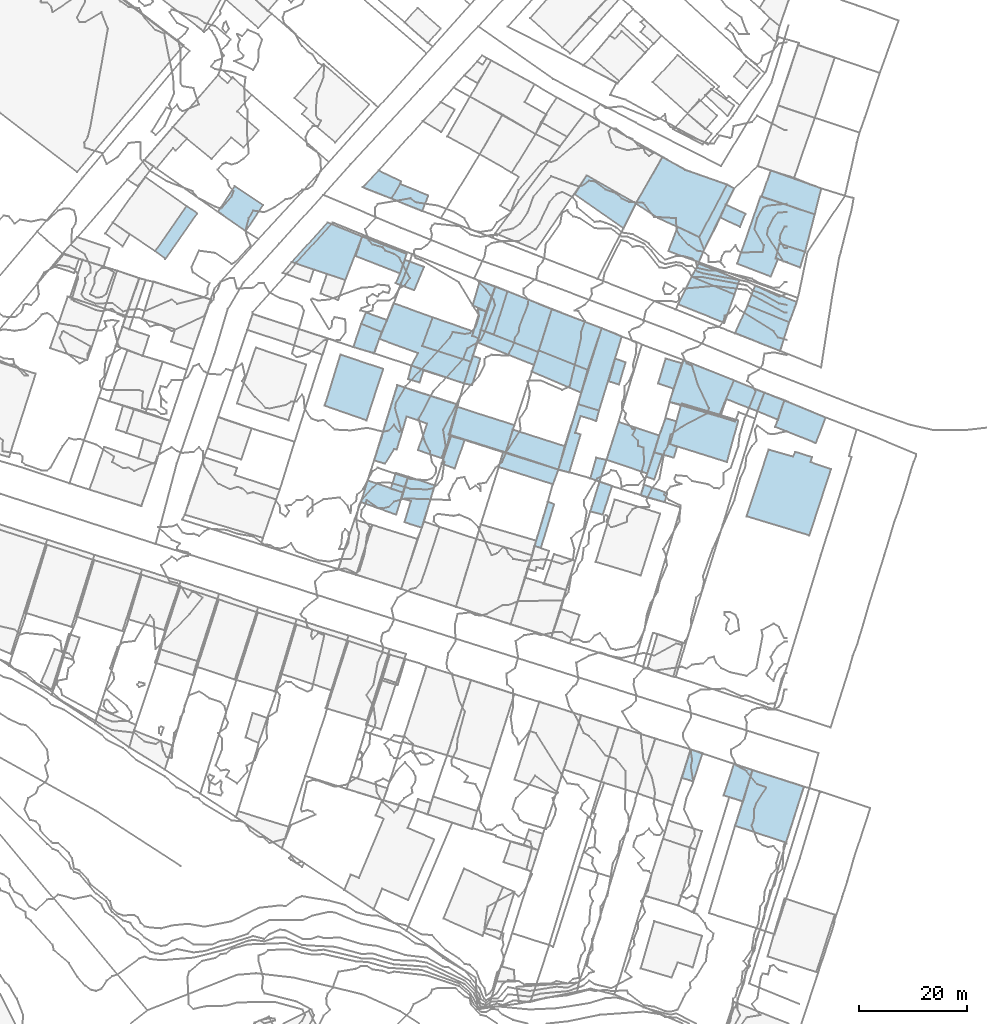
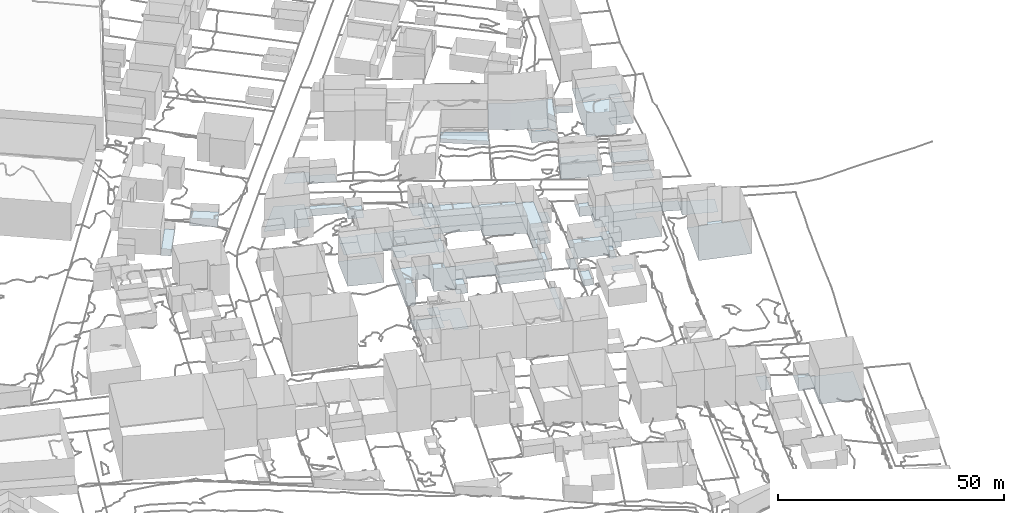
# Not in any storey, part 7 of 419: 60 footings.
"""IFC2X3 model written with IfcOpenShell, lengths in metres."""

from ifc_helpers import new_model, si_unit, frame, origin_with_axes, place, context, subcontext, project, faceted_brep, element, save


model = new_model("IFC2X3")

# Units and contexts
model_context = context("Model", 3, precision=1e-05, world=origin_with_axes())
body_context = subcontext(model_context, "Body", "Model", "MODEL_VIEW")
ifc_project = project(units=[si_unit("AREAUNIT", "SQUARE_METRE"), si_unit("LENGTHUNIT", "METRE")], contexts=[model_context])

# Footings
footing_1_placement = place(None, frame((909.2920204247, 193.2976909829, 76.31900177), z_axis=(0.0, 0.0, 1.0), x_axis=(1.0, 0.0, 0.0)))
element("IfcFooting", 1, at=footing_1_placement, Name="Sol 0", PredefinedType="STRIP_FOOTING", context=body_context, shape_type="Brep", body=[
    faceted_brep([(0.0, 0.0, 0.0), (1.9, 5.2999999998, 0.0), (9.4, 2.6999999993, 0.0), (10.4, 1.3999999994, 0.0), (9.0, -2.9000000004, 0.0), (9.2000000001, 1.8999999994, 0.0)], [[[0, 1, 2]], [[3, 4, 0]], [[0, 2, 5]], [[5, 3, 0]]]),
])
footing_2_placement = place(None, frame((900.3920204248, 172.1976909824, 75.807699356), z_axis=(0.0, 0.0, 1.0), x_axis=(1.0, 0.0, 0.0)))
element("IfcFooting", 2, at=footing_2_placement, Name="Sol 0", PredefinedType="STRIP_FOOTING", context=body_context, shape_type="Brep", body=[
    faceted_brep([(2.0, -0.5999999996, 0.0), (0.0, 0.0, 0.0), (4.2999999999, 13.9000000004, 0.0), (6.0, 8.1000000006, 0.0), (4.2, 2.0, 0.0), (3.7, 2.1000000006, 0.0), (12.7999999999, 0.2999999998, 0.0), (8.1, 1.9000000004, 0.0), (9.7999999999, 6.7999999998, 0.0), (15.5, 10.2999999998, 0.0)], [[[0, 1, 2]], [[3, 4, 5]], [[6, 7, 8]], [[5, 0, 2]], [[9, 6, 8]], [[3, 5, 2]], [[9, 8, 3]], [[3, 2, 9]]]),
])
footing_3_placement = place(None, frame((891.2920204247, 182.2976909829, 78.2625008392), z_axis=(0.0, 0.0, 1.0), x_axis=(1.0, 0.0, 0.0)))
element("IfcFooting", 3, at=footing_3_placement, Name="Sol 0", PredefinedType="STRIP_FOOTING", context=body_context, shape_type="Brep", body=[
    faceted_brep([(7.7000000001, -2.7000000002, 0.0), (0.0, 0.0, 0.0), (2.9, 9.3999999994, 0.0), (10.8, 6.7999999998, 0.0)], [[[0, 1, 2]], [[2, 3, 0]]]),
])
footing_4_placement = place(None, frame((943.2920204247, 172.2976909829, 73.4867980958), z_axis=(0.0, 0.0, 1.0), x_axis=(1.0, 0.0, 0.0)))
element("IfcFooting", 4, at=footing_4_placement, Name="Sol 0", PredefinedType="STRIP_FOOTING", context=body_context, shape_type="Brep", body=[
    faceted_brep([(7.5, -2.5, 0.0), (0.0, 0.0, 0.0), (2.2000000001, 7.0, 0.0), (9.7000000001, 4.5, 0.0)], [[[0, 1, 2]], [[2, 3, 0]]]),
])
footing_5_placement = place(None, frame((950.5920204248, 169.1976909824, 72.9079986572), z_axis=(0.0, 0.0, 1.0), x_axis=(1.0, 0.0, 0.0)))
element("IfcFooting", 5, at=footing_5_placement, Name="Sol 0", PredefinedType="STRIP_FOOTING", context=body_context, shape_type="Brep", body=[
    faceted_brep([(3.0, 4.0, 0.0), (1.5, -0.5, 0.0), (0.0, 0.0, 0.0), (1.5, 4.5, 0.0), (0.2, 0.6000000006, 0.0)], [[[0, 1, 2]], [[2, 3, 0]], [[3, 2, 4]]]),
])
footing_6_placement = place(None, frame((952.0920204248, 173.6976909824, 72.2478011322), z_axis=(0.0, 0.0, 1.0), x_axis=(1.0, 0.0, 0.0)))
element("IfcFooting", 6, at=footing_6_placement, Name="Sol 0", PredefinedType="STRIP_FOOTING", context=body_context, shape_type="Brep", body=[
    faceted_brep([(0.0, 0.0, 0.0), (0.9, 3.1000000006, 0.0), (2.1, 6.2999999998, 0.0), (4.2, 1.0, 0.0), (3.6, -1.0, 0.0), (4.1, 5.7000000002, 0.0), (2.9, 1.5, 0.0)], [[[0, 1, 2]], [[3, 4, 0]], [[2, 5, 6]], [[6, 3, 0]], [[0, 2, 6]]]),
])
footing_7_placement = place(None, frame((871.5920204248, 218.0976909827, 79.8493997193), z_axis=(0.0, 0.0, 1.0), x_axis=(1.0, 0.0, 0.0)))
element("IfcFooting", 7, at=footing_7_placement, Name="Sol 0", PredefinedType="STRIP_FOOTING", context=body_context, shape_type="Brep", body=[
    faceted_brep([(8.3, 1.2000000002, 0.0), (5.1, -3.6000000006, 0.0), (0.0, 0.0, 0.0), (3.1, 4.7000000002, 0.0)], [[[0, 1, 2]], [[2, 3, 0]]]),
])
footing_8_placement = place(None, frame((898.2920204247, 222.5976909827, 78.9779991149), z_axis=(0.0, 0.0, 1.0), x_axis=(1.0, 0.0, 0.0)))
element("IfcFooting", 8, at=footing_8_placement, Name="Sol 0", PredefinedType="STRIP_FOOTING", context=body_context, shape_type="Brep", body=[
    faceted_brep([(7.1000000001, 1.0999999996, 0.0), (6.9, 0.5999999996, 0.0), (5.3, -2.1000000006, 0.0), (0.0, 0.0, 0.0), (2.9, 3.0999999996, 0.0)], [[[0, 1, 2]], [[3, 4, 0]], [[0, 2, 3]]]),
])
footing_9_placement = place(None, frame((903.5920204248, 220.4976909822, 78.4268002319), z_axis=(0.0, 0.0, 1.0), x_axis=(1.0, 0.0, 0.0)))
element("IfcFooting", 9, at=footing_9_placement, Name="Sol 0", PredefinedType="STRIP_FOOTING", context=body_context, shape_type="Brep", body=[
    faceted_brep([(6.8, 0.6000000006, 0.0), (5.7, -2.2999999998, 0.0), (0.0, 0.0, 0.0), (1.6, 2.7000000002, 0.0)], [[[0, 1, 2]], [[2, 3, 0]]]),
])
footing_10_placement = place(None, frame((934.3920204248, 170.4976909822, 74.1349980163), z_axis=(0.0, 0.0, 1.0), x_axis=(1.0, 0.0, 0.0)))
element("IfcFooting", 10, at=footing_10_placement, Name="Sol 0", PredefinedType="STRIP_FOOTING", context=body_context, shape_type="Brep", body=[
    faceted_brep([(2.0, -0.5, 0.0), (0.0, 0.0, 0.0), (3.6, 12.1000000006, 0.0), (3.1, 6.8000000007, 0.0), (4.1, 6.5, 0.0), (7.5, 10.9000000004, 0.0), (7.0, 9.0, 0.0), (4.1, 9.9000000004, 0.0)], [[[0, 1, 2]], [[3, 4, 0]], [[5, 6, 7]], [[3, 0, 2]], [[2, 5, 7]], [[7, 3, 2]]]),
])
footing_11_placement = place(None, frame((905.4920204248, 165.1976909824, 74.2875997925), z_axis=(0.0, 0.0, 1.0), x_axis=(1.0, 0.0, 0.0)))
element("IfcFooting", 11, at=footing_11_placement, Name="Sol 0", PredefinedType="STRIP_FOOTING", context=body_context, shape_type="Brep", body=[
    faceted_brep([(1.7, -0.5, 0.0), (0.0, 0.0, 0.0), (1.2, 4.0, 0.0), (3.7, -5.3999999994, 0.0), (0.5, -4.3999999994, 0.0), (6.1, 2.4000000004, 0.0)], [[[0, 1, 2]], [[3, 4, 0]], [[2, 5, 3]], [[3, 0, 2]]]),
])
footing_12_placement = place(None, frame((897.9920204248, 197.3976909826, 78.2880004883), z_axis=(0.0, 0.0, 1.0), x_axis=(1.0, 0.0, 0.0)))
element("IfcFooting", 12, at=footing_12_placement, Name="Sol 0", PredefinedType="STRIP_FOOTING", context=body_context, shape_type="Brep", body=[
    faceted_brep([(3.7999999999, -1.5, 0.0), (0.0, 0.0, 0.0), (0.9, 2.0999999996, 0.0), (4.7999999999, 0.7000000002, 0.0)], [[[0, 1, 2]], [[2, 3, 0]]]),
])
footing_13_placement = place(None, frame((930.7920204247, 192.4976909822, 74.588999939), z_axis=(0.0, 0.0, 1.0), x_axis=(1.0, 0.0, 0.0)))
element("IfcFooting", 13, at=footing_13_placement, Name="Sol 0", PredefinedType="STRIP_FOOTING", context=body_context, shape_type="Brep", body=[
    faceted_brep([(0.0, 0.0, 0.0), (2.4, 7.6000000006, 0.0), (11.6000000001, 4.1000000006, 0.0), (9.0, -3.5999999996, 0.0)], [[[0, 1, 2]], [[2, 3, 0]]]),
])
footing_14_placement = place(None, frame((937.9920204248, 182.5976909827, 74.1879985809), z_axis=(0.0, 0.0, 1.0), x_axis=(1.0, 0.0, 0.0)))
element("IfcFooting", 14, at=footing_14_placement, Name="Sol 0", PredefinedType="STRIP_FOOTING", context=body_context, shape_type="Brep", body=[
    faceted_brep([(0.0, 0.0, 0.0), (4.4, 14.0, 0.0), (8.1, 12.5, 0.0), (3.9, -1.2000000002, 0.0)], [[[0, 1, 2]], [[2, 3, 0]]]),
])
footing_15_placement = place(None, frame((906.6920204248, 187.1976909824, 77.49039917), z_axis=(0.0, 0.0, 1.0), x_axis=(1.0, 0.0, 0.0)))
element("IfcFooting", 15, at=footing_15_placement, Name="Sol 0", PredefinedType="STRIP_FOOTING", context=body_context, shape_type="Brep", body=[
    faceted_brep([(0.0, 0.0, 0.0), (0.6, 2.5, 0.0), (2.8, 1.6000000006, 0.0), (2.1, -0.5999999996, 0.0)], [[[0, 1, 2]], [[2, 3, 0]]]),
])
footing_16_placement = place(None, frame((896.5920204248, 193.0976909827, 78.2880004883), z_axis=(0.0, 0.0, 1.0), x_axis=(1.0, 0.0, 0.0)))
element("IfcFooting", 16, at=footing_16_placement, Name="Sol 0", PredefinedType="STRIP_FOOTING", context=body_context, shape_type="Brep", body=[
    faceted_brep([(3.8, -1.1000000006, 0.0), (0.0, 0.0, 0.0), (1.4, 4.2999999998, 0.0), (5.2, 2.7999999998, 0.0)], [[[0, 1, 2]], [[2, 3, 0]]]),
])
footing_17_placement = place(None, frame((912.8920204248, 171.5976909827, 75.113199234), z_axis=(0.0, 0.0, 1.0), x_axis=(1.0, 0.0, 0.0)))
element("IfcFooting", 17, at=footing_17_placement, Name="Sol 0", PredefinedType="STRIP_FOOTING", context=body_context, shape_type="Brep", body=[
    faceted_brep([(0.0, 0.0, 0.0), (1.7, 5.0999999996, 0.0), (4.2, 4.3999999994, 0.0), (2.3999999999, -0.9000000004, 0.0)], [[[0, 1, 2]], [[2, 3, 0]]]),
])
footing_18_placement = place(None, frame((937.3920204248, 221.2976909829, 77.2576004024), z_axis=(0.0, 0.0, 1.0), x_axis=(1.0, 0.0, 0.0)))
element("IfcFooting", 18, at=footing_18_placement, Name="Sol 0", PredefinedType="STRIP_FOOTING", context=body_context, shape_type="Brep", body=[
    faceted_brep([(2.2, 3.5, 0.0), (11.2999999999, -1.7000000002, 0.0), (9.0, -6.3000000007, 0.0), (0.0, 0.0, 0.0)], [[[0, 1, 2]], [[2, 3, 0]]]),
])
footing_19_placement = place(None, frame((966.9920204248, 104.7976909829, 66.9700019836), z_axis=(0.0, 0.0, 1.0), x_axis=(1.0, 0.0, 0.0)))
element("IfcFooting", 19, at=footing_19_placement, Name="Sol 0", PredefinedType="STRIP_FOOTING", context=body_context, shape_type="Brep", body=[
    faceted_brep([(3.2, 10.2999999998, 0.0), (12.7, 7.1999999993, 0.0), (9.4, -3.1000000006, 0.0), (0.0, 0.0, 0.0)], [[[0, 1, 2]], [[2, 3, 0]]]),
])
footing_20_placement = place(None, frame((969.0920204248, 161.8976909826, 70.3125), z_axis=(0.0, 0.0, 1.0), x_axis=(1.0, 0.0, 0.0)))
element("IfcFooting", 20, at=footing_20_placement, Name="Sol 0", PredefinedType="STRIP_FOOTING", context=body_context, shape_type="Brep", body=[
    faceted_brep([(11.8, 10.0, 0.0), (15.6, 8.7000000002, 0.0), (11.6, -3.5, 0.0), (9.0, 11.9000000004, 0.0), (12.1, 10.9000000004, 0.0), (0.0, 0.0, 0.0), (4.1, 12.2999999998, 0.0), (8.6, 11.0, 0.0)], [[[0, 1, 2]], [[3, 4, 0]], [[5, 6, 7]], [[0, 2, 5]], [[7, 3, 0]], [[0, 5, 7]]]),
])
footing_21_placement = place(None, frame((949.5920204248, 165.7976909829, 71.9440007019), z_axis=(0.0, 0.0, 1.0), x_axis=(1.0, 0.0, 0.0)))
element("IfcFooting", 21, at=footing_21_placement, Name="Sol 0", PredefinedType="STRIP_FOOTING", context=body_context, shape_type="Brep", body=[
    faceted_brep([(0.0, 0.0, 0.0), (0.6, 1.8999999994, 0.0), (4.9, 0.3999999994, 0.0), (4.4, -1.3000000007, 0.0)], [[[0, 1, 2]], [[2, 3, 0]]]),
])
footing_22_placement = place(None, frame((903.4920204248, 166.9976909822, 75.2657026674), z_axis=(0.0, 0.0, 1.0), x_axis=(1.0, 0.0, 0.0)))
element("IfcFooting", 22, at=footing_22_placement, Name="Sol 0", PredefinedType="STRIP_FOOTING", context=body_context, shape_type="Brep", body=[
    faceted_brep([(2.2, -0.6999999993, 0.0), (0.0, 0.0, 0.0), (0.9, 2.9000000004, 0.0), (3.2, 2.2000000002, 0.0)], [[[0, 1, 2]], [[2, 3, 0]]]),
])
footing_23_placement = place(None, frame((904.3920204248, 204.8976909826, 78.1399993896), z_axis=(0.0, 0.0, 1.0), x_axis=(1.0, 0.0, 0.0)))
element("IfcFooting", 23, at=footing_23_placement, Name="Sol 0", PredefinedType="STRIP_FOOTING", context=body_context, shape_type="Brep", body=[
    faceted_brep([(3.3999999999, -1.2999999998, 0.0), (0.0, 0.0, 0.0), (0.7999999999, 1.7999999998, 0.0), (1.7, 4.2999999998, 0.0), (5.2, 3.0, 0.0)], [[[0, 1, 2]], [[3, 4, 0]], [[0, 2, 3]]]),
])
footing_24_placement = place(None, frame((859.9920204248, 210.7976909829, 80.3249977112), z_axis=(0.0, 0.0, 1.0), x_axis=(1.0, 0.0, 0.0)))
element("IfcFooting", 24, at=footing_24_placement, Name="Sol 0", PredefinedType="STRIP_FOOTING", context=body_context, shape_type="Brep", body=[
    faceted_brep([(0.0, 0.0, 0.0), (5.7999999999, 8.2999999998, 0.0), (7.7999999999, 7.0, 0.0), (1.9, -1.4000000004, 0.0)], [[[0, 1, 2]], [[2, 3, 0]]]),
])
footing_25_placement = place(None, frame((929.9920204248, 156.3976909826, 74.1690032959), z_axis=(0.0, 0.0, 1.0), x_axis=(1.0, 0.0, 0.0)))
element("IfcFooting", 25, at=footing_25_placement, Name="Sol 0", PredefinedType="STRIP_FOOTING", context=body_context, shape_type="Brep", body=[
    faceted_brep([(0.0, 0.0, 0.0), (0.2999999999, 1.0, 0.0), (2.5, 8.2000000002, 0.0), (3.6, 7.7000000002, 0.0), (1.2, -0.2999999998, 0.0)], [[[0, 1, 2]], [[3, 4, 0]], [[0, 2, 3]]]),
])
footing_26_placement = place(None, frame((897.9920204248, 164.4976909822, 74.7147990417), z_axis=(0.0, 0.0, 1.0), x_axis=(1.0, 0.0, 0.0)))
element("IfcFooting", 26, at=footing_26_placement, Name="Sol 0", PredefinedType="STRIP_FOOTING", context=body_context, shape_type="Brep", body=[
    faceted_brep([(0.0, 0.0, 0.0), (1.2, 4.0, 0.0), (7.7, 1.8000000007, 0.0), (6.5, -2.2999999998, 0.0)], [[[0, 1, 2]], [[2, 3, 0]]]),
])
footing_27_placement = place(None, frame((896.9920204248, 209.8976909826, 78.3790014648), z_axis=(0.0, 0.0, 1.0), x_axis=(1.0, 0.0, 0.0)))
element("IfcFooting", 27, at=footing_27_placement, Name="Sol 0", PredefinedType="STRIP_FOOTING", context=body_context, shape_type="Brep", body=[
    faceted_brep([(0.0, 0.0, 0.0), (1.2, 3.5999999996, 0.0), (9.4, 0.4000000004, 0.0), (8.2, -3.2000000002, 0.0)], [[[0, 1, 2]], [[2, 3, 0]]]),
])
footing_28_placement = place(None, frame((954.6920204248, 210.7976909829, 77.4896006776), z_axis=(0.0, 0.0, 1.0), x_axis=(1.0, 0.0, 0.0)))
element("IfcFooting", 28, at=footing_28_placement, Name="Sol 0", PredefinedType="STRIP_FOOTING", context=body_context, shape_type="Brep", body=[
    faceted_brep([(6.6, 0.2999999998, 0.0), (5.6, -2.0, 0.0), (0.0, 0.0, 0.0), (1.7000000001, 4.5, 0.0), (5.7000000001, 2.5999999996, 0.0)], [[[0, 1, 2]], [[3, 4, 0]], [[0, 2, 3]]]),
])
footing_29_placement = place(None, frame((964.2920204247, 216.9976909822, 78.3328025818), z_axis=(0.0, 0.0, 1.0), x_axis=(1.0, 0.0, 0.0)))
element("IfcFooting", 29, at=footing_29_placement, Name="Sol 0", PredefinedType="STRIP_FOOTING", context=body_context, shape_type="Brep", body=[
    faceted_brep([(0.0, 0.0, 0.0), (1.0, 2.4000000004, 0.0), (4.6000000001, 0.7000000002, 0.0), (3.6000000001, -1.6999999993, 0.0)], [[[0, 1, 2]], [[2, 3, 0]]]),
])
footing_30_placement = place(None, frame((960.3920204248, 213.3976909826, 78.0435987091), z_axis=(0.0, 0.0, 1.0), x_axis=(1.0, 0.0, 0.0)))
element("IfcFooting", 30, at=footing_30_placement, Name="Sol 0", PredefinedType="STRIP_FOOTING", context=body_context, shape_type="Brep", body=[
    faceted_brep([(0.0, 0.0, 0.0), (5.1, 9.7000000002, 0.0), (6.3999999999, 9.0, 0.0), (0.8999999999, -2.2999999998, 0.0)], [[[0, 1, 2]], [[2, 3, 0]]]),
])
footing_31_placement = place(None, frame((971.8920204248, 220.8976909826, 76.4740020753), z_axis=(0.0, 0.0, 1.0), x_axis=(1.0, 0.0, 0.0)))
element("IfcFooting", 31, at=footing_31_placement, Name="Sol 0", PredefinedType="STRIP_FOOTING", context=body_context, shape_type="Brep", body=[
    faceted_brep([(1.7, 4.7999999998, 0.0), (11.0, 1.5, 0.0), (9.7999999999, -3.2999999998, 0.0), (0.0, 0.0, 0.0)], [[[0, 1, 2]], [[2, 3, 0]]]),
])
footing_32_placement = place(None, frame((971.0920204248, 181.2976909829, 71.1359985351), z_axis=(0.0, 0.0, 1.0), x_axis=(1.0, 0.0, 0.0)))
element("IfcFooting", 32, at=footing_32_placement, Name="Sol 0", PredefinedType="STRIP_FOOTING", context=body_context, shape_type="Brep", body=[
    faceted_brep([(0.0, 0.0, 0.0), (1.3, 3.3999999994, 0.0), (5.0, 2.0, 0.0), (3.8, -1.6000000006, 0.0)], [[[0, 1, 2]], [[2, 3, 0]]]),
])
footing_33_placement = place(None, frame((918.4920204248, 195.1976909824, 76.8913980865), z_axis=(0.0, 0.0, 1.0), x_axis=(1.0, 0.0, 0.0)))
element("IfcFooting", 33, at=footing_33_placement, Name="Sol 0", PredefinedType="STRIP_FOOTING", context=body_context, shape_type="Brep", body=[
    faceted_brep([(1.2, 3.9000000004, 0.0), (1.1, 4.9000000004, 0.0), (2.6, 4.5, 0.0), (1.2, -0.5, 0.0), (0.0, 0.0, 0.0)], [[[0, 1, 2]], [[3, 4, 0]], [[0, 2, 3]]]),
])
footing_34_placement = place(None, frame((918.5920204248, 200.7976909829, 76.5183987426), z_axis=(0.0, 0.0, 1.0), x_axis=(1.0, 0.0, 0.0)))
element("IfcFooting", 34, at=footing_34_placement, Name="Sol 0", PredefinedType="STRIP_FOOTING", context=body_context, shape_type="Brep", body=[
    faceted_brep([(0.0, 0.0, 0.0), (1.3, 4.5, 0.0), (4.2, 3.5, 0.0), (2.5, -1.1000000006, 0.0)], [[[0, 1, 2]], [[2, 3, 0]]]),
])
footing_35_placement = place(None, frame((954.8920204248, 182.9976909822, 71.304499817), z_axis=(0.0, 0.0, 1.0), x_axis=(1.0, 0.0, 0.0)))
element("IfcFooting", 35, at=footing_35_placement, Name="Sol 0", PredefinedType="STRIP_FOOTING", context=body_context, shape_type="Brep", body=[
    faceted_brep([(0.0, 0.0, 0.0), (2.6, 7.7000000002, 0.0), (17.5, 1.7000000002, 0.0), (10.5, 0.5, 0.0), (9.5, -2.3999999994, 0.0), (16.2, -1.6999999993, 0.0)], [[[0, 1, 2]], [[3, 4, 0]], [[2, 5, 3]], [[3, 0, 2]]]),
])
footing_36_placement = place(None, frame((929.4920204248, 188.5976909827, 74.588999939), z_axis=(0.0, 0.0, 1.0), x_axis=(1.0, 0.0, 0.0)))
element("IfcFooting", 36, at=footing_36_placement, Name="Sol 0", PredefinedType="STRIP_FOOTING", context=body_context, shape_type="Brep", body=[
    faceted_brep([(10.2999999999, 0.2999999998, 0.0), (9.1, -3.9000000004, 0.0), (0.0, 0.0, 0.0), (1.2999999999, 3.8999999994, 0.0), (1.2, 3.5999999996, 0.0)], [[[0, 1, 2]], [[2, 3, 0]], [[3, 2, 4]]]),
])
footing_37_placement = place(None, frame((919.3920204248, 193.9976909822, 75.3839996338), z_axis=(0.0, 0.0, 1.0), x_axis=(1.0, 0.0, 0.0)))
element("IfcFooting", 37, at=footing_37_placement, Name="Sol 0", PredefinedType="STRIP_FOOTING", context=body_context, shape_type="Brep", body=[
    faceted_brep([(10.5, -4.1999999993, 0.0), (0.0, 0.0, 0.0), (0.2999999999, 0.7000000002, 0.0), (0.7, 2.3000000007, 0.0), (11.2999999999, -1.7999999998, 0.0)], [[[0, 1, 2]], [[3, 4, 0]], [[0, 2, 3]]]),
])
footing_38_placement = place(None, frame((969.2920204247, 200.7976909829, 73.1272024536), z_axis=(0.0, 0.0, 1.0), x_axis=(1.0, 0.0, 0.0)))
element("IfcFooting", 38, at=footing_38_placement, Name="Sol 0", PredefinedType="STRIP_FOOTING", context=body_context, shape_type="Brep", body=[
    faceted_brep([(9.1000000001, 0.5999999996, 0.0), (7.7000000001, -3.1000000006, 0.0), (0.0, 0.0, 0.0), (1.4, 3.6999999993, 0.0)], [[[0, 1, 2]], [[2, 3, 0]]]),
])
footing_39_placement = place(None, frame((966.9920204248, 195.6976909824, 72.0699989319), z_axis=(0.0, 0.0, 1.0), x_axis=(1.0, 0.0, 0.0)))
element("IfcFooting", 39, at=footing_39_placement, Name="Sol 0", PredefinedType="STRIP_FOOTING", context=body_context, shape_type="Brep", body=[
    faceted_brep([(10.0, 2.0, 0.0), (8.2999999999, -3.2999999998, 0.0), (0.0, 0.0, 0.0), (2.2999999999, 5.1000000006, 0.0)], [[[0, 1, 2]], [[2, 3, 0]]]),
])
footing_40_placement = place(None, frame((923.3920204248, 170.9976909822, 74.3231997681), z_axis=(0.0, 0.0, 1.0), x_axis=(1.0, 0.0, 0.0)))
element("IfcFooting", 40, at=footing_40_placement, Name="Sol 0", PredefinedType="STRIP_FOOTING", context=body_context, shape_type="Brep", body=[
    faceted_brep([(0.0, 0.0, 0.0), (0.7999999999, 2.7000000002, 0.0), (11.0, -0.5, 0.0), (10.0, -3.1999999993, 0.0)], [[[0, 1, 2]], [[2, 3, 0]]]),
])
footing_41_placement = place(None, frame((974.3920204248, 178.3976909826, 70.8199996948), z_axis=(0.0, 0.0, 1.0), x_axis=(1.0, 0.0, 0.0)))
element("IfcFooting", 41, at=footing_41_placement, Name="Sol 0", PredefinedType="STRIP_FOOTING", context=body_context, shape_type="Brep", body=[
    faceted_brep([(0.0, 0.0, 0.0), (1.7, 4.9000000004, 0.0), (9.2999999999, 1.7000000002, 0.0), (7.5, -3.0, 0.0)], [[[0, 1, 2]], [[2, 3, 0]]]),
])
footing_42_placement = place(None, frame((940.2920204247, 168.8976909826, 73.7157978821), z_axis=(0.0, 0.0, 1.0), x_axis=(1.0, 0.0, 0.0)))
element("IfcFooting", 42, at=footing_42_placement, Name="Sol 0", PredefinedType="STRIP_FOOTING", context=body_context, shape_type="Brep", body=[
    faceted_brep([(1.7000000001, -0.5999999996, 0.0), (0.0, 0.0, 0.0), (1.1000000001, 3.7999999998, 0.0), (3.0, 3.4000000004, 0.0)], [[[0, 1, 2]], [[2, 3, 0]]]),
])
footing_43_placement = place(None, frame((948.6920204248, 219.5976909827, 77.9420021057), z_axis=(0.0, 0.0, 1.0), x_axis=(1.0, 0.0, 0.0)))
element("IfcFooting", 43, at=footing_43_placement, Name="Sol 0", PredefinedType="STRIP_FOOTING", context=body_context, shape_type="Brep", body=[
    faceted_brep([(0.0, 0.0, 0.0), (4.9, 8.5999999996, 0.0), (9.1, 6.2000000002, 0.0), (11.7000000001, -6.2000000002, 0.0), (4.1, -2.7000000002, 0.0), (16.8, 3.5, 0.0)], [[[0, 1, 2]], [[3, 4, 0]], [[2, 5, 3]], [[3, 0, 2]]]),
])
footing_44_placement = place(None, frame((957.1920204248, 113.5976909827, 68.7071984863), z_axis=(0.0, 0.0, 1.0), x_axis=(1.0, 0.0, 0.0)))
element("IfcFooting", 44, at=footing_44_placement, Name="Sol 0", PredefinedType="STRIP_FOOTING", context=body_context, shape_type="Brep", body=[
    faceted_brep([(1.6, 5.2999999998, 0.0), (3.8, 4.5999999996, 0.0), (2.1, -0.6000000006, 0.0), (0.0, 0.0, 0.0)], [[[0, 1, 2]], [[2, 3, 0]]]),
])
footing_45_placement = place(None, frame((958.9920204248, 206.0976909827, 73.0903997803), z_axis=(0.0, 0.0, 1.0), x_axis=(1.0, 0.0, 0.0)))
element("IfcFooting", 45, at=footing_45_placement, Name="Sol 0", PredefinedType="STRIP_FOOTING", context=body_context, shape_type="Brep", body=[
    faceted_brep([(0.0, 0.0, 0.0), (1.2999999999, 2.3999999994, 0.0), (8.7999999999, -0.6000000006, 0.0), (7.9, -3.2999999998, 0.0)], [[[0, 1, 2]], [[2, 3, 0]]]),
])
footing_46_placement = place(None, frame((974.4920204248, 209.4976909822, 76.1332025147), z_axis=(0.0, 0.0, 1.0), x_axis=(1.0, 0.0, 0.0)))
element("IfcFooting", 46, at=footing_46_placement, Name="Sol 0", PredefinedType="STRIP_FOOTING", context=body_context, shape_type="Brep", body=[
    faceted_brep([(0.7, 2.7000000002, 0.0), (5.4, 1.2000000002, 0.0), (4.5, -1.6999999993, 0.0), (0.0, 0.0, 0.0)], [[[0, 1, 2]], [[2, 3, 0]]]),
])
footing_47_placement = place(None, frame((967.3920204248, 208.4976909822, 76.1332025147), z_axis=(0.0, 0.0, 1.0), x_axis=(1.0, 0.0, 0.0)))
element("IfcFooting", 47, at=footing_47_placement, Name="Sol 0", PredefinedType="STRIP_FOOTING", context=body_context, shape_type="Brep", body=[
    faceted_brep([(4.2999999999, 12.4000000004, 0.0), (14.2999999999, 9.1000000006, 0.0), (12.5, 2.2000000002, 0.0), (6.2, -2.3999999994, 0.0), (0.0, 0.0, 0.0), (7.1, 1.0, 0.0), (7.5, 0.9000000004, 0.0), (7.7999999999, 3.7000000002, 0.0)], [[[0, 1, 2]], [[3, 4, 0]], [[5, 6, 3]], [[0, 2, 7]], [[5, 3, 0]], [[0, 7, 5]]]),
])
footing_48_placement = place(None, frame((956.4920204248, 200.9976909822, 72.9532003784), z_axis=(0.0, 0.0, 1.0), x_axis=(1.0, 0.0, 0.0)))
element("IfcFooting", 48, at=footing_48_placement, Name="Sol 0", PredefinedType="STRIP_FOOTING", context=body_context, shape_type="Brep", body=[
    faceted_brep([(0.0, 0.0, 0.0), (2.5, 5.1000000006, 0.0), (10.4, 1.8000000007, 0.0), (8.5, -3.3999999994, 0.0)], [[[0, 1, 2]], [[2, 3, 0]]]),
])
footing_49_placement = place(None, frame((954.9920204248, 175.1976909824, 72.0975009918), z_axis=(0.0, 0.0, 1.0), x_axis=(1.0, 0.0, 0.0)))
element("IfcFooting", 49, at=footing_49_placement, Name="Sol 0", PredefinedType="STRIP_FOOTING", context=body_context, shape_type="Brep", body=[
    faceted_brep([(0.0, 0.0, 0.0), (2.0, 7.1000000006, 0.0), (2.2, 7.5, 0.0), (12.6, 4.4000000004, 0.0), (10.5, -3.2999999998, 0.0)], [[[0, 1, 2]], [[3, 4, 0]], [[0, 2, 3]]]),
])
footing_50_placement = place(None, frame((952.7920204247, 186.3976909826, 73.0867999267), z_axis=(0.0, 0.0, 1.0), x_axis=(1.0, 0.0, 0.0)))
element("IfcFooting", 50, at=footing_50_placement, Name="Sol 0", PredefinedType="STRIP_FOOTING", context=body_context, shape_type="Brep", body=[
    faceted_brep([(1.4, 4.5999999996, 0.0), (4.4, 3.7000000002, 0.0), (2.9, -1.0, 0.0), (0.0, 0.0, 0.0)], [[[0, 1, 2]], [[2, 3, 0]]]),
])
footing_51_placement = place(None, frame((964.8920204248, 110.3976909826, 67.8999998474), z_axis=(0.0, 0.0, 1.0), x_axis=(1.0, 0.0, 0.0)))
element("IfcFooting", 51, at=footing_51_placement, Name="Sol 0", PredefinedType="STRIP_FOOTING", context=body_context, shape_type="Brep", body=[
    faceted_brep([(5.2999999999, 4.7000000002, 0.0), (3.6, -1.0999999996, 0.0), (0.0, 0.0, 0.0), (1.8999999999, 5.7999999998, 0.0)], [[[0, 1, 2]], [[2, 3, 0]]]),
])
footing_52_placement = place(None, frame((916.9920204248, 186.3976909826, 75.8489025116), z_axis=(0.0, 0.0, 1.0), x_axis=(1.0, 0.0, 0.0)))
element("IfcFooting", 52, at=footing_52_placement, Name="Sol 0", PredefinedType="STRIP_FOOTING", context=body_context, shape_type="Brep", body=[
    faceted_brep([(1.5, -0.2999999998, 0.0), (0.0, 0.0, 0.0), (1.2999999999, 4.0, 0.0), (1.6, 5.0999999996, 0.0), (3.0, 4.5999999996, 0.0)], [[[0, 1, 2]], [[3, 4, 0]], [[0, 2, 3]]]),
])
footing_53_placement = place(None, frame((920.0920204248, 196.2976909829, 76.1059989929), z_axis=(0.0, 0.0, 1.0), x_axis=(1.0, 0.0, 0.0)))
element("IfcFooting", 53, at=footing_53_placement, Name="Sol 0", PredefinedType="STRIP_FOOTING", context=body_context, shape_type="Brep", body=[
    faceted_brep([(0.0, 0.0, 0.0), (2.7, 8.0, 0.0), (4.9, 7.0999999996, 0.0), (2.4, -0.9000000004, 0.0)], [[[0, 1, 2]], [[2, 3, 0]]]),
])
footing_54_placement = place(None, frame((924.6920204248, 173.6976909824, 74.3799972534), z_axis=(0.0, 0.0, 1.0), x_axis=(1.0, 0.0, 0.0)))
element("IfcFooting", 54, at=footing_54_placement, Name="Sol 0", PredefinedType="STRIP_FOOTING", context=body_context, shape_type="Brep", body=[
    faceted_brep([(0.0, 0.0, 0.0), (1.3, 4.2000000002, 0.0), (10.9, 1.1000000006, 0.0), (9.7000000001, -3.2000000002, 0.0)], [[[0, 1, 2]], [[2, 3, 0]]]),
])
footing_55_placement = place(None, frame((914.1920204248, 176.9976909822, 74.9100016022), z_axis=(0.0, 0.0, 1.0), x_axis=(1.0, 0.0, 0.0)))
element("IfcFooting", 55, at=footing_55_placement, Name="Sol 0", PredefinedType="STRIP_FOOTING", context=body_context, shape_type="Brep", body=[
    faceted_brep([(0.0, 0.0, 0.0), (1.5, 5.1000000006, 0.0), (12.1, 1.7000000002, 0.0), (10.5, -3.2999999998, 0.0)], [[[0, 1, 2]], [[2, 3, 0]]]),
])
footing_56_placement = place(None, frame((922.4920204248, 195.3976909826, 75.4079986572), z_axis=(0.0, 0.0, 1.0), x_axis=(1.0, 0.0, 0.0)))
element("IfcFooting", 56, at=footing_56_placement, Name="Sol 0", PredefinedType="STRIP_FOOTING", context=body_context, shape_type="Brep", body=[
    faceted_brep([(0.0, 0.0, 0.0), (2.5, 8.0, 0.0), (10.7, 4.7000000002, 0.0), (8.2, -3.2000000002, 0.0)], [[[0, 1, 2]], [[2, 3, 0]]]),
])
footing_57_placement = place(None, frame((943.6920204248, 186.7976909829, 74.0939971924), z_axis=(0.0, 0.0, 1.0), x_axis=(1.0, 0.0, 0.0)))
element("IfcFooting", 57, at=footing_57_placement, Name="Sol 0", PredefinedType="STRIP_FOOTING", context=body_context, shape_type="Brep", body=[
    faceted_brep([(0.0, 0.0, 0.0), (1.2000000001, 4.1999999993, 0.0), (3.1, 3.5, 0.0), (1.9, -0.6000000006, 0.0)], [[[0, 1, 2]], [[2, 3, 0]]]),
])
footing_58_placement = place(None, frame((901.3920204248, 194.5976909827, 76.1120010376), z_axis=(0.0, 0.0, 1.0), x_axis=(1.0, 0.0, 0.0)))
element("IfcFooting", 58, at=footing_58_placement, Name="Sol 0", PredefinedType="STRIP_FOOTING", context=body_context, shape_type="Brep", body=[
    faceted_brep([(0.0, 0.0, 0.0), (2.6, 6.5999999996, 0.0), (9.7999999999, 4.0, 0.0), (15.6, -8.2000000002, 0.0), (5.8999999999, -4.9000000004, 0.0), (7.1, -2.6000000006, 0.0), (7.8999999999, -1.2999999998, 0.0), (16.8999999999, -4.2000000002, 0.0)], [[[0, 1, 2]], [[3, 4, 5]], [[6, 7, 3]], [[0, 2, 6]], [[6, 3, 5]], [[5, 0, 6]]]),
])
footing_59_placement = place(None, frame((940.2920204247, 162.7976909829, 72.9740005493), z_axis=(0.0, 0.0, 1.0), x_axis=(1.0, 0.0, 0.0)))
element("IfcFooting", 59, at=footing_59_placement, Name="Sol 0", PredefinedType="STRIP_FOOTING", context=body_context, shape_type="Brep", body=[
    faceted_brep([(0.0, 0.0, 0.0), (1.7000000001, 5.5, 0.0), (4.0, 4.6999999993, 0.0), (2.3, -0.6000000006, 0.0)], [[[0, 1, 2]], [[2, 3, 0]]]),
])
footing_60_placement = place(None, frame((885.1920204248, 208.7976909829, 79.1050006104), z_axis=(0.0, 0.0, 1.0), x_axis=(1.0, 0.0, 0.0)))
element("IfcFooting", 60, at=footing_60_placement, Name="Sol 0", PredefinedType="STRIP_FOOTING", context=body_context, shape_type="Brep", body=[
    faceted_brep([(9.9, -3.3000000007, 0.0), (4.1, -1.4000000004, 0.0), (0.0, 0.0, 0.0), (6.6, 7.2999999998, 0.0), (13.0, 4.6999999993, 0.0)], [[[0, 1, 2]], [[3, 4, 0]], [[0, 2, 3]]]),
])

save(model, "model.ifc")
